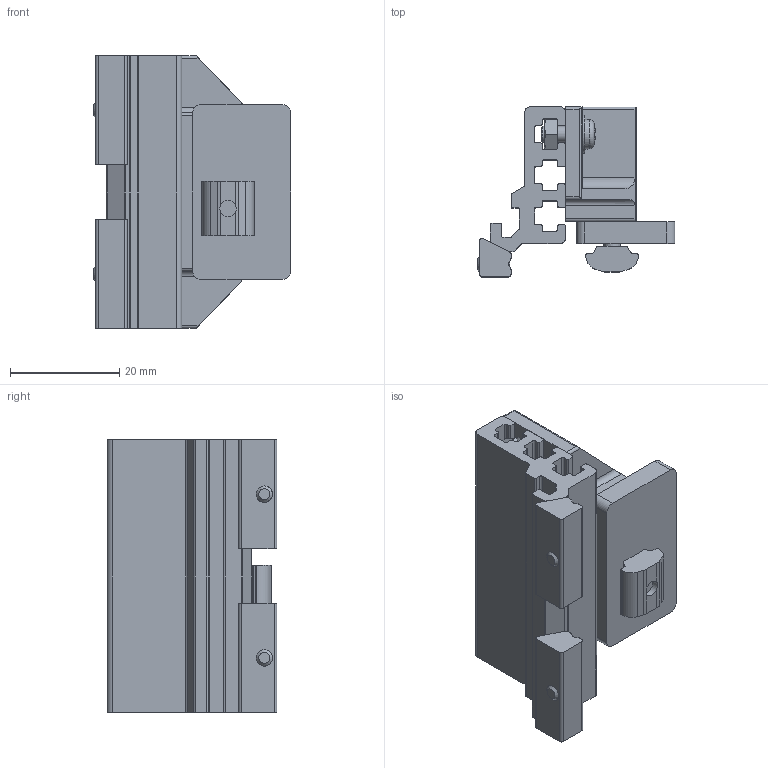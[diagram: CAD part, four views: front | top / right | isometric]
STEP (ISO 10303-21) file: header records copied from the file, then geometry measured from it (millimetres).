
FILE_DESCRIPTION(('STEP AP214'),'1');
FILE_NAME('MC25-S.stp','2022-06-06T08:55:53',(' '),(' '),'Spatial InterOp 3D',' ',' ');
FILE_SCHEMA(('AUTOMOTIVE_DESIGN { 1 0 10303 214 1 1 1 1 }'));
Length unit declared in the file: millimetre
Products named in the file (17): MC25-N; M3×8NNS; MC40; ___; MC4P3; ねじ: 皿頭 - M3.0 x 8.0; NF25-M3; M3ナット; M3PW; MC25-S; ST2S-L50; NW25; M3*6押しねじ
Assembly tree (18 placements, depth 4):
  MC25-S
    MC25-N
      M3×8NNS
      MC40
      ___
        MC4P3
        ねじ: 皿頭 - M3.0 x 8.0
        NF25-M3
      M3ナット
      M3ナット
      M3PW
      M3×8NNS
      M3PW
    ST2S-L50
      NW25  x2
      M3*6押しねじ  x2
      ST2S-L50
Bounding box: 36.2 x 31.1 x 50 mm (x, y, z)
Volume: 20415.4 mm3; surface area: 14103.1 mm2
Topology: 15 solids, 15 shells, 368 faces, 983 edges, 648 vertices
Faces by surface type: plane 217, cylinder 134, cone 13, torus 2, sphere 2
Full cylindrical faces by diameter (mm): 3 x9, 3.2 x2, 3.4 x1, 7 x2
Entity records: 13498 total; most frequent: CARTESIAN_POINT 1988, DIRECTION 1824, ORIENTED_EDGE 1722, EDGE_CURVE 861, AXIS2_PLACEMENT_3D 635, VERTEX_POINT 583, LINE 554, VECTOR 554
